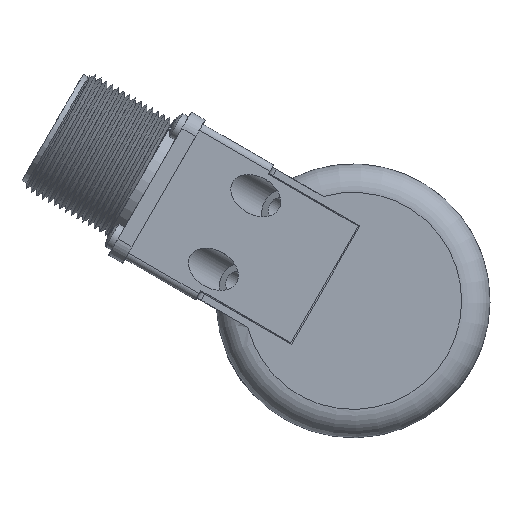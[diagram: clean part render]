
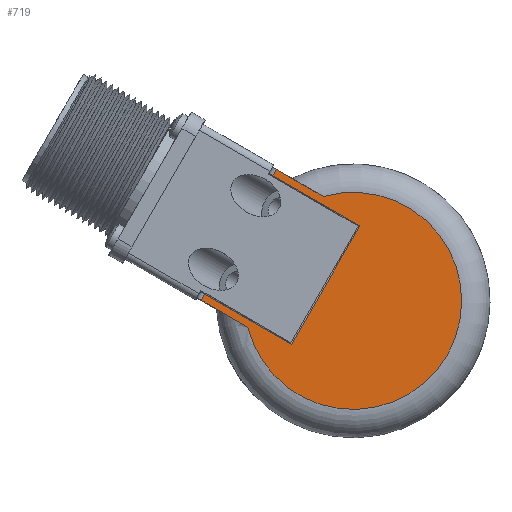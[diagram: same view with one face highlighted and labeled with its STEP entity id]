
A CAD part, left-side view. The second image highlights one B-rep face of the part: STEP entity #719.
In plain terms, the highlighted planar face has unit normal (-1, 0, 0).
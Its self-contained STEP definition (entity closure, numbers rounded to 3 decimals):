
#719 = ADVANCED_FACE( '', ( #1940 ), #1941, .T. );
#1940 = FACE_OUTER_BOUND( '', #5657, .T. );
#1941 = PLANE( '', #5658 );
#5657 = EDGE_LOOP( '', ( #17257, #17258, #17259, #17260, #17261, #17262, #17263, #17264 ) );
#5658 = AXIS2_PLACEMENT_3D( '', #17265, #17266, #17267 );
#17257 = ORIENTED_EDGE( '', *, *, #21463, .T. );
#17258 = ORIENTED_EDGE( '', *, *, #21464, .T. );
#17259 = ORIENTED_EDGE( '', *, *, #21465, .T. );
#17260 = ORIENTED_EDGE( '', *, *, #21466, .T. );
#17261 = ORIENTED_EDGE( '', *, *, #21467, .F. );
#17262 = ORIENTED_EDGE( '', *, *, #21468, .F. );
#17263 = ORIENTED_EDGE( '', *, *, #21469, .T. );
#17264 = ORIENTED_EDGE( '', *, *, #21470, .T. );
#17265 = CARTESIAN_POINT( '', ( -49.374, 10.615, 39.615 ) );
#17266 = DIRECTION( '', ( -1., 0., 0. ) );
#17267 = DIRECTION( '', ( 0., 0.5, -0.866 ) );
#21463 = EDGE_CURVE( '', #23415, #23416, #23417, .T. );
#21464 = EDGE_CURVE( '', #23416, #23418, #23419, .T. );
#21465 = EDGE_CURVE( '', #23418, #23420, #23421, .T. );
#21466 = EDGE_CURVE( '', #23420, #23422, #23423, .T. );
#21467 = EDGE_CURVE( '', #23424, #23422, #23425, .T. );
#21468 = EDGE_CURVE( '', #23426, #23424, #23427, .T. );
#21469 = EDGE_CURVE( '', #23426, #23428, #23429, .T. );
#21470 = EDGE_CURVE( '', #23428, #23415, #23430, .T. );
#23415 = VERTEX_POINT( '', #26987 );
#23416 = VERTEX_POINT( '', #26988 );
#23417 = CIRCLE( '', #26989, 23. );
#23418 = VERTEX_POINT( '', #26990 );
#23419 = LINE( '', #26991, #26992 );
#23420 = VERTEX_POINT( '', #26993 );
#23421 = LINE( '', #26994, #26995 );
#23422 = VERTEX_POINT( '', #26996 );
#23423 = LINE( '', #26997, #26998 );
#23424 = VERTEX_POINT( '', #26999 );
#23425 = LINE( '', #27000, #27001 );
#23426 = VERTEX_POINT( '', #27002 );
#23427 = LINE( '', #27003, #27004 );
#23428 = VERTEX_POINT( '', #27005 );
#23429 = LINE( '', #27006, #27007 );
#23430 = LINE( '', #27008, #27009 );
#26987 = CARTESIAN_POINT( '', ( -49.374, 22.309, -5.595 ) );
#26988 = CARTESIAN_POINT( '', ( -49.374, 6.309, 22.118 ) );
#26989 = AXIS2_PLACEMENT_3D( '', #32877, #32878, #32879 );
#26990 = CARTESIAN_POINT( '', ( -49.374, 16.249, 27.856 ) );
#26991 = CARTESIAN_POINT( '', ( -49.374, 17.115, 28.356 ) );
#26992 = VECTOR( '', #32880, 1000. );
#26993 = CARTESIAN_POINT( '', ( -49.374, 16.999, 26.557 ) );
#26994 = CARTESIAN_POINT( '', ( -49.374, 16.999, 26.557 ) );
#26995 = VECTOR( '', #32881, 1000. );
#26996 = CARTESIAN_POINT( '', ( -49.374, -1.448, 15.907 ) );
#26997 = CARTESIAN_POINT( '', ( -49.374, 17.865, 27.057 ) );
#26998 = VECTOR( '', #32882, 1000. );
#26999 = CARTESIAN_POINT( '', ( -49.374, 13.052, -9.207 ) );
#27000 = CARTESIAN_POINT( '', ( -49.374, 13.052, -9.207 ) );
#27001 = VECTOR( '', #32883, 1000. );
#27002 = CARTESIAN_POINT( '', ( -49.374, 31.499, 1.443 ) );
#27003 = CARTESIAN_POINT( '', ( -49.374, 32.365, 1.943 ) );
#27004 = VECTOR( '', #32884, 1000. );
#27005 = CARTESIAN_POINT( '', ( -49.374, 32.249, 0.144 ) );
#27006 = CARTESIAN_POINT( '', ( -49.374, 32.249, 0.144 ) );
#27007 = VECTOR( '', #32885, 1000. );
#27008 = CARTESIAN_POINT( '', ( -49.374, 28.946, -1.763 ) );
#27009 = VECTOR( '', #32886, 1000. );
#32877 = CARTESIAN_POINT( '', ( -49.374, 0., 0. ) );
#32878 = DIRECTION( '', ( -1., 0., 0. ) );
#32879 = DIRECTION( '', ( 0., 0.5, -0.866 ) );
#32880 = DIRECTION( '', ( 0., 0.866, 0.5 ) );
#32881 = DIRECTION( '', ( 0., 0.5, -0.866 ) );
#32882 = DIRECTION( '', ( 0., -0.866, -0.5 ) );
#32883 = DIRECTION( '', ( 0., -0.5, 0.866 ) );
#32884 = DIRECTION( '', ( 0., -0.866, -0.5 ) );
#32885 = DIRECTION( '', ( 0., 0.5, -0.866 ) );
#32886 = DIRECTION( '', ( 0., -0.866, -0.5 ) );
